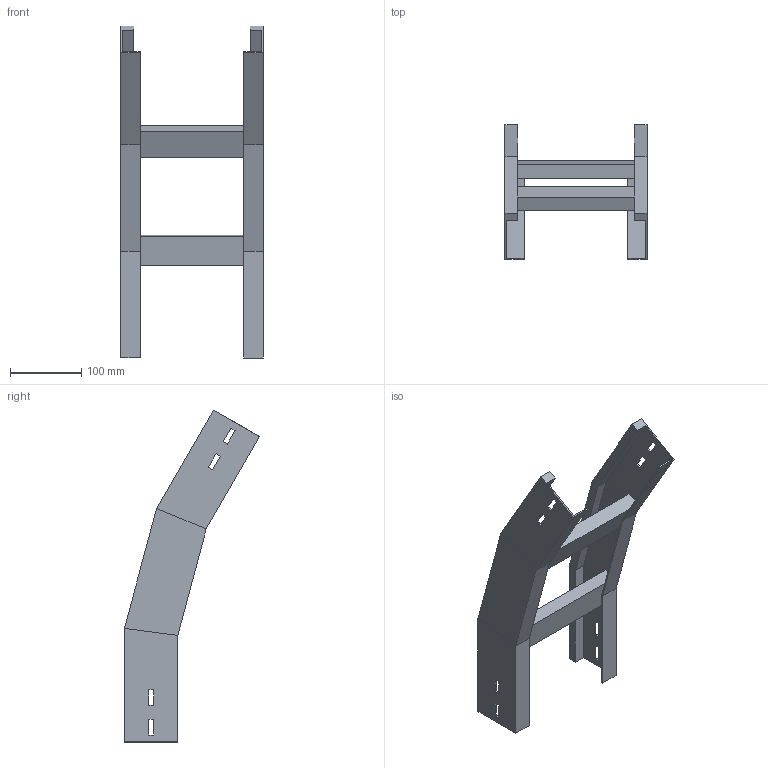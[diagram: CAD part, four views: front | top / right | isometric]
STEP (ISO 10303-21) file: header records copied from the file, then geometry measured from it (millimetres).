
FILE_DESCRIPTION (( 'STEP AP214' ), '1' );
FILE_NAME ('A2_35B3C200.step', '2025-02-21T14:49:46', ( '' ), ( '' ), 'SwSTEP 2.0', 'SolidWorks 2023', '' );
FILE_SCHEMA (( 'AUTOMOTIVE_DESIGN' ));
Length unit declared in the file: millimetre
Products named in the file (3): TRAVERSINO_200; LONGH.DISCESA_30°_H75_R300; A2_35B3C200
Assembly tree (5 placements, depth 2):
  A2_35B3C200
    LONGH.DISCESA_30°_H75_R300  x2
    TRAVERSINO_200  x3
Bounding box: 200 x 190.12 x 467.12 mm (x, y, z)
Volume: 850466.1 mm3; surface area: 299260.5 mm2
Topology: 5 solids, 5 shells, 102 faces, 244 edges, 152 vertices
Faces by surface type: plane 102
Entity records: 1480 total; most frequent: CARTESIAN_POINT 244, ORIENTED_EDGE 232, DIRECTION 228, EDGE_CURVE 116, VECTOR 116, LINE 116, VERTEX_POINT 72, AXIS2_PLACEMENT_3D 56
